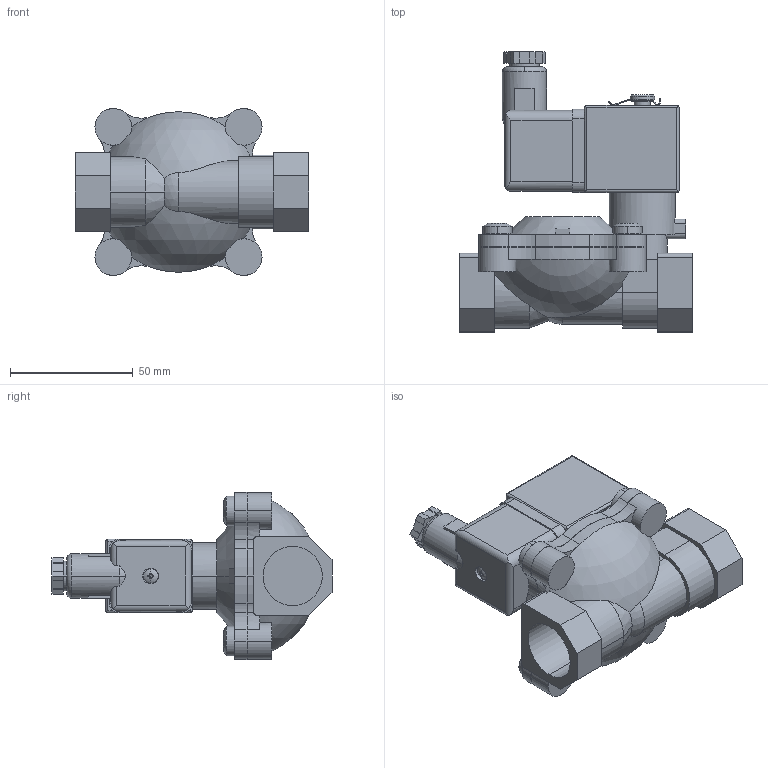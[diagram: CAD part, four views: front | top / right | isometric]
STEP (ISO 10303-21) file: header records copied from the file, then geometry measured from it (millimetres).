
FILE_DESCRIPTION(('STEP AP214'),'1');
FILE_NAME('C:/TPO v2/SharedFS/Outgoing/solenoid_valve_sce238c009.stp','2015-02-25T14:53:54',('TraceParts'),('TraceParts S.A.'),'XStep 1.0',' ',' ');
FILE_SCHEMA(('automotive_design'));
Length unit declared in the file: millimetre
Products named in the file (3): 1; 2; 3
Bounding box: 95 x 114 x 68 mm (x, y, z)
Volume: 213458 mm3; surface area: 51381.5 mm2
Topology: 3 solids, 3 shells, 599 faces, 1697 edges, 1122 vertices
Faces by surface type: cylinder 277, plane 255, cone 42, sphere 13, torus 12
Entity records: 22270 total; most frequent: CARTESIAN_POINT 6547, ORIENTED_EDGE 3374, DIRECTION 3317, EDGE_CURVE 1687, AXIS2_PLACEMENT_3D 1276, VERTEX_POINT 1122, LINE 765, VECTOR 765
